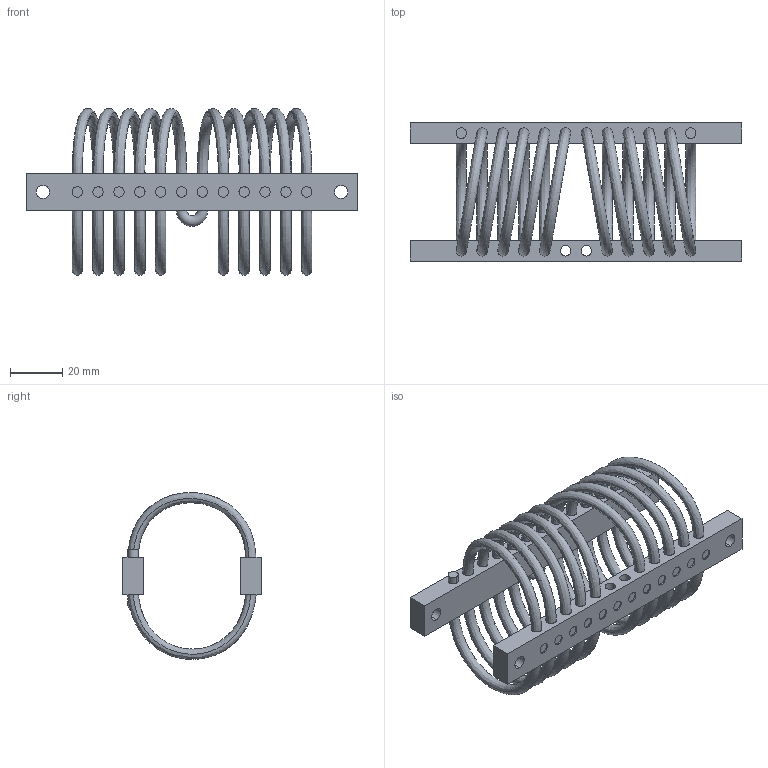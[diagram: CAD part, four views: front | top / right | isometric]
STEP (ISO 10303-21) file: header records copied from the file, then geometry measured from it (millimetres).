
FILE_DESCRIPTION (( 'STEP AP214' ), '1' );
FILE_NAME ('WR5-900-10DM.STEP', '2018-12-07T09:53:28', ( 'user' ), ( 'Microsoft' ), 'SwSTEP 2.0', 'SolidWorks 2016', '' );
FILE_SCHEMA (( 'AUTOMOTIVE_DESIGN' ));
Length unit declared in the file: millimetre
Products named in the file (1): WR5-900-10DM
Bounding box: 127 x 53 x 63.98 mm (x, y, z)
Volume: 45794.2 mm3; surface area: 38691.9 mm2
Topology: 25 solids, 25 shells, 316 faces, 702 edges, 460 vertices
Faces by surface type: cylinder 192, plane 82, bspline 40, torus 2
Entity records: 22110 total; most frequent: CARTESIAN_POINT 14839, ORIENTED_EDGE 1404, DIRECTION 1382, EDGE_CURVE 702, AXIS2_PLACEMENT_3D 583, VERTEX_POINT 460, EDGE_LOOP 396, ADVANCED_FACE 316
